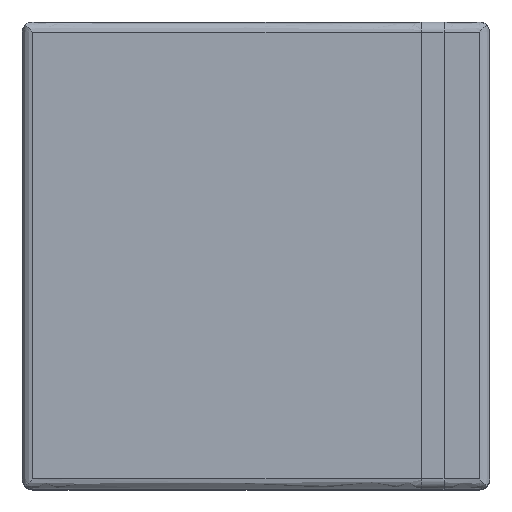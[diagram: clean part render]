
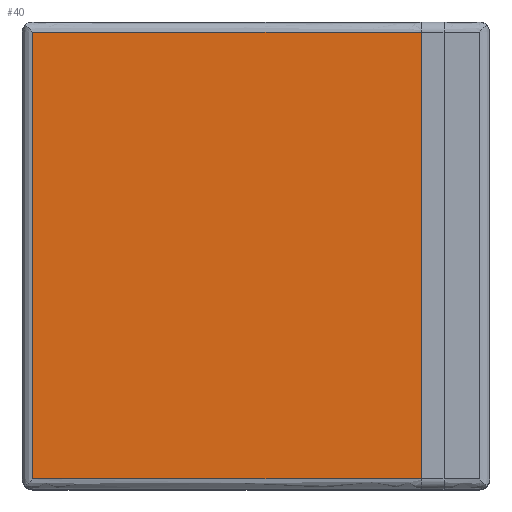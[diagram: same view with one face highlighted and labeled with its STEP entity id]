
A CAD part, top view. The second image highlights one B-rep face of the part: STEP entity #40.
In plain terms, the highlighted planar face has unit normal (0, 0, 1).
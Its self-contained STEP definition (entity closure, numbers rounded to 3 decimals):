
#40=ADVANCED_FACE('',(#116),#1105,.T.);
#116=FACE_OUTER_BOUND('',#192,.T.);
#192=EDGE_LOOP('',(#284,#285,#286,#287));
#284=ORIENTED_EDGE('',*,*,#627,.F.);
#285=ORIENTED_EDGE('',*,*,#638,.T.);
#286=ORIENTED_EDGE('',*,*,#639,.T.);
#287=ORIENTED_EDGE('',*,*,#636,.F.);
#627=EDGE_CURVE('',#989,#984,#839,.T.);
#636=EDGE_CURVE('',#984,#995,#847,.T.);
#638=EDGE_CURVE('',#989,#996,#848,.T.);
#639=EDGE_CURVE('',#996,#995,#849,.T.);
#839=B_SPLINE_CURVE_WITH_KNOTS('',1,(#1418,#1419),.UNSPECIFIED.,.F.,.F.,
(2,2),(0.,392.),.UNSPECIFIED.);
#847=B_SPLINE_CURVE_WITH_KNOTS('',1,(#1483,#1484),.UNSPECIFIED.,.F.,.F.,
(2,2),(0.,341.),.UNSPECIFIED.);
#848=B_SPLINE_CURVE_WITH_KNOTS('',1,(#1488,#1489),.UNSPECIFIED.,.F.,.F.,
(2,2),(-170.5,170.5),.UNSPECIFIED.);
#849=B_SPLINE_CURVE_WITH_KNOTS('',1,(#1490,#1491),.UNSPECIFIED.,.F.,.F.,
(2,2),(-196.,196.),.UNSPECIFIED.);
#984=VERTEX_POINT('',#1348);
#989=VERTEX_POINT('',#1353);
#995=VERTEX_POINT('',#1359);
#996=VERTEX_POINT('',#1360);
#1105=PLANE('',#1201);
#1201=AXIS2_PLACEMENT_3D('',#1327,#1252,$);
#1252=DIRECTION('',(0.,0.,1.));
#1327=CARTESIAN_POINT('',(-196.,196.,410.));
#1348=CARTESIAN_POINT('',(-196.,196.,410.));
#1353=CARTESIAN_POINT('',(-196.,-196.,410.));
#1359=CARTESIAN_POINT('',(145.,196.,410.));
#1360=CARTESIAN_POINT('',(145.,-196.,410.));
#1418=CARTESIAN_POINT('',(-196.,-196.,410.));
#1419=CARTESIAN_POINT('',(-196.,196.,410.));
#1483=CARTESIAN_POINT('',(-196.,196.,410.));
#1484=CARTESIAN_POINT('',(145.,196.,410.));
#1488=CARTESIAN_POINT('',(-196.,-196.,410.));
#1489=CARTESIAN_POINT('',(145.,-196.,410.));
#1490=CARTESIAN_POINT('',(145.,-196.,410.));
#1491=CARTESIAN_POINT('',(145.,196.,410.));
